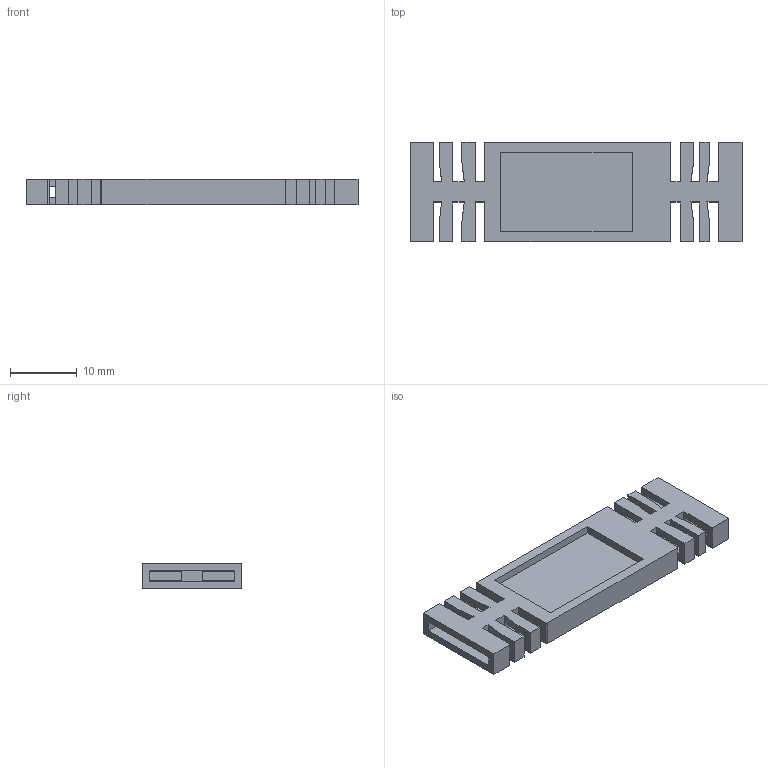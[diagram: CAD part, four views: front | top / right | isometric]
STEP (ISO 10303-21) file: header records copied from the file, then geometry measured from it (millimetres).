
FILE_DESCRIPTION(('Open CASCADE Model'),'2;1');
FILE_NAME('Open CASCADE Shape Model','2026-02-10T10:58:42',('Author'),( 'Open CASCADE'),'Open CASCADE STEP processor 7.8','Open CASCADE 7.8' ,'Unknown');
FILE_SCHEMA(('AUTOMOTIVE_DESIGN { 1 0 10303 214 1 1 1 1 }'));
Length unit declared in the file: millimetre
Products named in the file (1): Solid1
Bounding box: 49.9 x 15 x 3.8 mm (x, y, z)
Volume: 1690.1 mm3; surface area: 2710.3 mm2
Topology: 1 solids, 1 shells, 120 faces, 381 edges, 254 vertices
Faces by surface type: plane 117, cylinder 3
Entity records: 4189 total; most frequent: ORIENTED_EDGE 762, CARTESIAN_POINT 756, DIRECTION 629, EDGE_CURVE 381, LINE 375, VECTOR 375, VERTEX_POINT 254, FACE_BOUND 135
